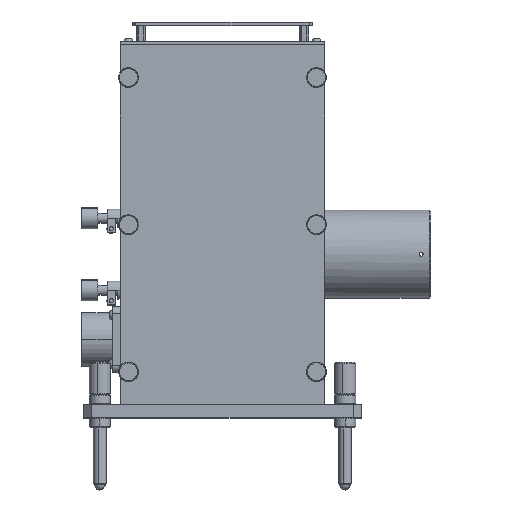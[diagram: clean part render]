
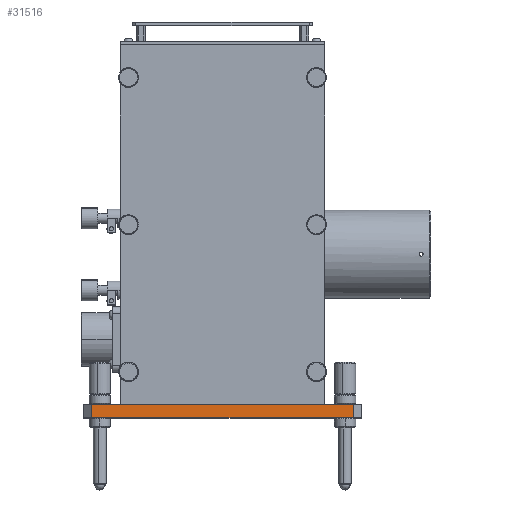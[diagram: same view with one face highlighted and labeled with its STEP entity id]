
A CAD part, top view. The second image highlights one B-rep face of the part: STEP entity #31516.
In plain terms, the highlighted planar face has unit normal (0, 0, 1).
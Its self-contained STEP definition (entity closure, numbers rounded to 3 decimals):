
#2082 = VERTEX_POINT ( 'NONE', #45612 ) ;
#3087 = LINE ( 'NONE', #38166, #27773 ) ;
#3887 = VERTEX_POINT ( 'NONE', #35414 ) ;
#5629 = VECTOR ( 'NONE', #34511, 1000. ) ;
#10561 = LINE ( 'NONE', #18836, #5629 ) ;
#12063 = VERTEX_POINT ( 'NONE', #12365 ) ;
#12365 = CARTESIAN_POINT ( 'NONE',  ( -81.955, -76.772, 140.907 ) ) ;
#12520 = LINE ( 'NONE', #40716, #27315 ) ;
#13857 = ORIENTED_EDGE ( 'NONE', *, *, #34509, .F. ) ;
#14166 = EDGE_CURVE ( 'NONE', #12063, #3887, #37425, .T. ) ;
#17516 = ORIENTED_EDGE ( 'NONE', *, *, #48013, .F. ) ;
#17803 = CARTESIAN_POINT ( 'NONE',  ( 78.045, -76.772, 140.907 ) ) ;
#18251 = VERTEX_POINT ( 'NONE', #17803 ) ;
#18836 = CARTESIAN_POINT ( 'NONE',  ( 78.045, -76.772, 140.907 ) ) ;
#19948 = ORIENTED_EDGE ( 'NONE', *, *, #50214, .T. ) ;
#24173 = DIRECTION ( 'NONE',  ( 0., -1., 0. ) ) ;
#26512 = FACE_OUTER_BOUND ( 'NONE', #45444, .T. ) ;
#27315 = VECTOR ( 'NONE', #44685, 1000. ) ;
#27773 = VECTOR ( 'NONE', #37994, 1000. ) ;
#31516 = ADVANCED_FACE ( 'NONE', ( #26512 ), #34685, .F. ) ;
#33712 = VECTOR ( 'NONE', #24173, 1000. ) ;
#34500 = DIRECTION ( 'NONE',  ( -1., 0., 0. ) ) ;
#34509 = EDGE_CURVE ( 'NONE', #18251, #2082, #10561, .T. ) ;
#34511 = DIRECTION ( 'NONE',  ( 0., -1., 0. ) ) ;
#34685 = PLANE ( 'NONE',  #40501 ) ;
#35414 = CARTESIAN_POINT ( 'NONE',  ( -81.955, -84.772, 140.907 ) ) ;
#36151 = ORIENTED_EDGE ( 'NONE', *, *, #14166, .T. ) ;
#37425 = LINE ( 'NONE', #43684, #33712 ) ;
#37994 = DIRECTION ( 'NONE',  ( 1., 0., 0. ) ) ;
#38166 = CARTESIAN_POINT ( 'NONE',  ( -81.955, -84.772, 140.907 ) ) ;
#38663 = CARTESIAN_POINT ( 'NONE',  ( -81.955, -76.772, 140.907 ) ) ;
#40501 = AXIS2_PLACEMENT_3D ( 'NONE', #38663, #50691, #34500 ) ;
#40716 = CARTESIAN_POINT ( 'NONE',  ( -81.955, -76.772, 140.907 ) ) ;
#43684 = CARTESIAN_POINT ( 'NONE',  ( -81.955, -76.772, 140.907 ) ) ;
#44685 = DIRECTION ( 'NONE',  ( 1., 0., 0. ) ) ;
#45444 = EDGE_LOOP ( 'NONE', ( #19948, #13857, #17516, #36151 ) ) ;
#45612 = CARTESIAN_POINT ( 'NONE',  ( 78.045, -84.772, 140.907 ) ) ;
#48013 = EDGE_CURVE ( 'NONE', #12063, #18251, #12520, .T. ) ;
#50214 = EDGE_CURVE ( 'NONE', #3887, #2082, #3087, .T. ) ;
#50691 = DIRECTION ( 'NONE',  ( 0., 0., -1. ) ) ;
